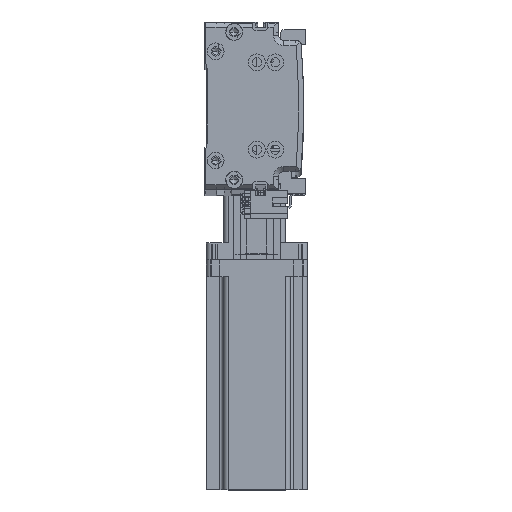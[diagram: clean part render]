
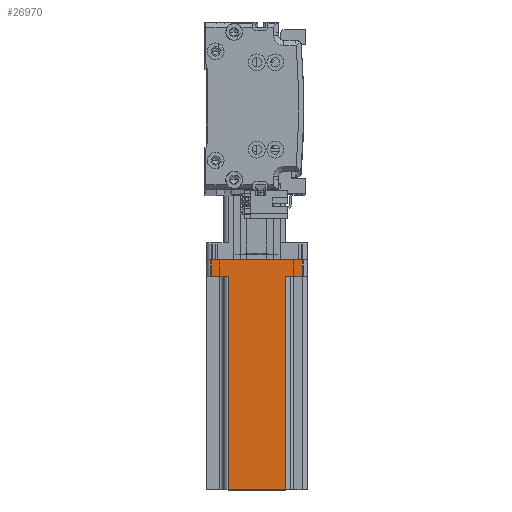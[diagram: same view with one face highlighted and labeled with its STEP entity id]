
A CAD part, top view. The second image highlights one B-rep face of the part: STEP entity #26970.
In plain terms, the highlighted planar face has unit normal (0, 0, 1) as drawn and (0, 1, 0) by its records, which use the part's own axes.
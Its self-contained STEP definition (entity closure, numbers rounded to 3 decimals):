
#462 = VERTEX_POINT ( 'NONE', #57488 ) ;
#2638 = DIRECTION ( 'NONE',  ( 0., -1., 0. ) ) ;
#2860 = CARTESIAN_POINT ( 'NONE',  ( 30., 30., 0. ) ) ;
#3709 = DIRECTION ( 'NONE',  ( 1., 0., 0. ) ) ;
#4053 = CARTESIAN_POINT ( 'NONE',  ( -27., 30., 137. ) ) ;
#4182 = CARTESIAN_POINT ( 'NONE',  ( -17., 30., 10. ) ) ;
#5325 = EDGE_CURVE ( 'NONE', #40789, #54059, #42565, .T. ) ;
#6929 = LINE ( 'NONE', #4053, #45278 ) ;
#8927 = VERTEX_POINT ( 'NONE', #55108 ) ;
#9732 = ORIENTED_EDGE ( 'NONE', *, *, #15919, .T. ) ;
#10501 = EDGE_CURVE ( 'NONE', #8927, #13467, #6929, .T. ) ;
#11964 = ORIENTED_EDGE ( 'NONE', *, *, #5325, .T. ) ;
#12260 = AXIS2_PLACEMENT_3D ( 'NONE', #32596, #2638, #37630 ) ;
#12295 = EDGE_CURVE ( 'NONE', #57473, #35087, #20651, .T. ) ;
#13467 = VERTEX_POINT ( 'NONE', #30507 ) ;
#14121 = DIRECTION ( 'NONE',  ( 0., 0., 1. ) ) ;
#15145 = DIRECTION ( 'NONE',  ( -1., 0., 0. ) ) ;
#15919 = EDGE_CURVE ( 'NONE', #13467, #57473, #33494, .T. ) ;
#17770 = ORIENTED_EDGE ( 'NONE', *, *, #34247, .T. ) ;
#19814 = ORIENTED_EDGE ( 'NONE', *, *, #37910, .F. ) ;
#20651 = LINE ( 'NONE', #53941, #55872 ) ;
#20679 = VECTOR ( 'NONE', #59874, 1000. ) ;
#22237 = LINE ( 'NONE', #44766, #20679 ) ;
#26970 = ADVANCED_FACE ( 'NONE', ( #43658 ), #37212, .F. ) ;
#28934 = DIRECTION ( 'NONE',  ( 0., 0., 1. ) ) ;
#30507 = CARTESIAN_POINT ( 'NONE',  ( -27., 30., 10. ) ) ;
#32011 = VERTEX_POINT ( 'NONE', #61493 ) ;
#32596 = CARTESIAN_POINT ( 'NONE',  ( 30., 30., 137. ) ) ;
#32705 = ORIENTED_EDGE ( 'NONE', *, *, #41598, .F. ) ;
#32802 = DIRECTION ( 'NONE',  ( -1., 0., 0. ) ) ;
#32994 = LINE ( 'NONE', #39130, #58038 ) ;
#33494 = LINE ( 'NONE', #33638, #48362 ) ;
#33638 = CARTESIAN_POINT ( 'NONE',  ( -20., 30., 10. ) ) ;
#34072 = EDGE_LOOP ( 'NONE', ( #9732, #57881, #32705, #11964, #19814, #17770, #43910, #52377 ) ) ;
#34122 = EDGE_CURVE ( 'NONE', #462, #8927, #63536, .T. ) ;
#34247 = EDGE_CURVE ( 'NONE', #32011, #462, #32994, .T. ) ;
#35087 = VERTEX_POINT ( 'NONE', #53422 ) ;
#36972 = VECTOR ( 'NONE', #32802, 1000. ) ;
#37212 = PLANE ( 'NONE',  #12260 ) ;
#37630 = DIRECTION ( 'NONE',  ( 1., 0., 0. ) ) ;
#37910 = EDGE_CURVE ( 'NONE', #32011, #54059, #46919, .T. ) ;
#39130 = CARTESIAN_POINT ( 'NONE',  ( 27., 30., 137. ) ) ;
#40107 = CARTESIAN_POINT ( 'NONE',  ( 20., 30., 10. ) ) ;
#40789 = VERTEX_POINT ( 'NONE', #41341 ) ;
#41001 = VECTOR ( 'NONE', #51415, 1000. ) ;
#41341 = CARTESIAN_POINT ( 'NONE',  ( 17., 30., 137. ) ) ;
#41598 = EDGE_CURVE ( 'NONE', #40789, #35087, #22237, .T. ) ;
#42565 = LINE ( 'NONE', #46355, #41001 ) ;
#43658 = FACE_OUTER_BOUND ( 'NONE', #34072, .T. ) ;
#43817 = VECTOR ( 'NONE', #15145, 1000. ) ;
#43910 = ORIENTED_EDGE ( 'NONE', *, *, #34122, .T. ) ;
#44176 = DIRECTION ( 'NONE',  ( 0., 0., -1. ) ) ;
#44179 = CARTESIAN_POINT ( 'NONE',  ( 17., 30., 10. ) ) ;
#44766 = CARTESIAN_POINT ( 'NONE',  ( 30., 30., 137. ) ) ;
#45278 = VECTOR ( 'NONE', #28934, 1000. ) ;
#46355 = CARTESIAN_POINT ( 'NONE',  ( 17., 30., 137. ) ) ;
#46919 = LINE ( 'NONE', #40107, #43817 ) ;
#48362 = VECTOR ( 'NONE', #3709, 1000. ) ;
#51415 = DIRECTION ( 'NONE',  ( 0., 0., -1. ) ) ;
#52377 = ORIENTED_EDGE ( 'NONE', *, *, #10501, .T. ) ;
#53422 = CARTESIAN_POINT ( 'NONE',  ( -17., 30., 137. ) ) ;
#53941 = CARTESIAN_POINT ( 'NONE',  ( -17., 30., 137. ) ) ;
#54059 = VERTEX_POINT ( 'NONE', #44179 ) ;
#55108 = CARTESIAN_POINT ( 'NONE',  ( -27., 30., 0. ) ) ;
#55872 = VECTOR ( 'NONE', #14121, 1000. ) ;
#57473 = VERTEX_POINT ( 'NONE', #4182 ) ;
#57488 = CARTESIAN_POINT ( 'NONE',  ( 27., 30., 0. ) ) ;
#57881 = ORIENTED_EDGE ( 'NONE', *, *, #12295, .T. ) ;
#58038 = VECTOR ( 'NONE', #44176, 1000. ) ;
#59874 = DIRECTION ( 'NONE',  ( -1., 0., 0. ) ) ;
#61493 = CARTESIAN_POINT ( 'NONE',  ( 27., 30., 10. ) ) ;
#63536 = LINE ( 'NONE', #2860, #36972 ) ;
